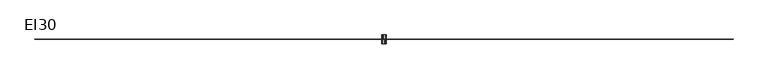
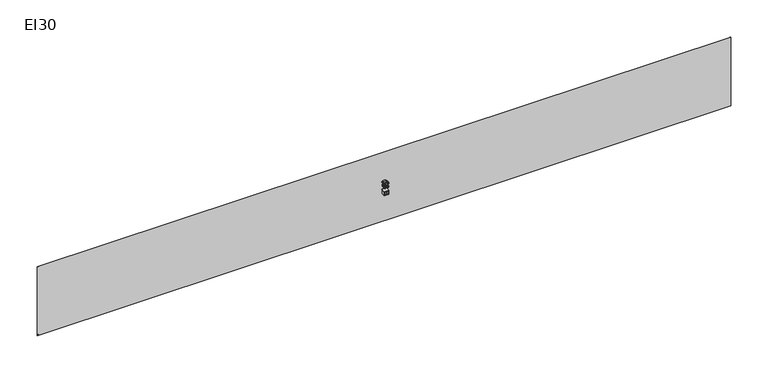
"""IFC4 building model written with IfcOpenShell, lengths in millimetres: proxy geometry, Fire_FireCompartmentationEI : EI30."""

from ifc_helpers import new_model, si_unit, point, frame, frame_2d, origin, origin_with_axes, place, context, project, spatial, polyline, circle_curve, trimmed, segment, composite_curve, outline, extrude, source, transform, mapped, element, save


def ei30_90d5b6a1(model_context):
    return source(origin(), model_context, "Body", "SweptSolid", [
        extrude(outline(polyline([(23900.0, -0.5), (0.0, -0.5), (0.0, 0.5), (23900.0, 0.5), (23900.0, -0.5)])), origin_with_axes(), (0.0, 0.0, 1.0), 2500.0),
        extrude(outline(composite_curve([segment(trimmed(circle_curve(frame_2d((28.9488523, 20.9372462)), 4.3000253), [point((27.7936078, 25.0791815))], [point((29.724042, 25.1668205))], False, "CARTESIAN"), True, "CONTINUOUS"), segment(trimmed(circle_curve(frame_2d((29.6833004, 19.2917407)), 5.875221), [point((29.724042, 25.1668205))], [point((32.6283278, 24.3755421))], False, "CARTESIAN"), True, "CONTINUOUS"), segment(trimmed(circle_curve(frame_2d((32.8576867, 20.8662932)), 3.5167361), [point((32.6283278, 24.3755421))], [point((30.6249304, 23.5833197))], True, "CARTESIAN"), True, "CONTINUOUS"), segment(trimmed(circle_curve(frame_2d((10.876956, 53.8348059)), 36.1266511), [point((30.6249304, 23.5833197))], [point((25.8949704, 20.9776277))], False, "CARTESIAN"), True, "CONTINUOUS"), segment(trimmed(circle_curve(frame_2d((21.9041848, 33.757735)), 13.3887083), [point((25.8949704, 20.9776277))], [point((22.6832699, 20.3917132))], False, "CARTESIAN"), True, "CONTINUOUS"), segment(trimmed(circle_curve(frame_2d((20.9508608, 39.8789486)), 19.5640891), [point((22.6832699, 20.3917132))], [point((20.0109811, 20.3374489))], False, "CARTESIAN"), True, "CONTINUOUS"), segment(trimmed(circle_curve(frame_2d((18.2722891, 30.1747881)), 9.9898094), [point((20.0109811, 20.3374489))], [point((25.2489423, 23.0247809))], True, "CARTESIAN"), True, "CONTINUOUS"), segment(trimmed(circle_curve(frame_2d((30.9774835, 18.5323372)), 7.2799887), [point((25.2489423, 23.0247809))], [point((27.7936078, 25.0791815))], False, "CARTESIAN"), True, "CONTINUOUS")], self_intersect=False)), frame((0.0, -0.6, 0.0), z_axis=(0.0, 1.0, 0.0), x_axis=(0.0, 0.0, 1.0)), (0.0, 0.0, 1.0), 1.2),
        extrude(outline(composite_curve([segment(trimmed(circle_curve(frame_2d((34.8553456, 17.4656787)), 4.3823741), [point((35.4675373, 21.8050824))], [point((32.7666638, 21.3182897))], True, "CARTESIAN"), True, "CONTINUOUS"), segment(trimmed(circle_curve(frame_2d((31.0348418, 25.2412811)), 4.2882478), [point((32.7666638, 21.3182897))], [point((31.0556823, 20.9530839))], False, "CARTESIAN"), True, "CONTINUOUS"), segment(trimmed(circle_curve(frame_2d((30.8661112, 26.3534755)), 5.4037178), [point((31.0556823, 20.9530839))], [point((28.4262544, 21.5319337))], False, "CARTESIAN"), True, "CONTINUOUS"), segment(trimmed(circle_curve(frame_2d((28.9867579, 26.8058524)), 5.3036197), [point((28.4262544, 21.5319337))], [point((30.6443727, 21.7679267))], True, "CARTESIAN"), True, "CONTINUOUS"), segment(trimmed(circle_curve(frame_2d((33.7648144, 18.2895153)), 4.6729544), [point((30.6443727, 21.7679267))], [point((32.5632515, 22.8053485))], False, "CARTESIAN"), True, "CONTINUOUS"), segment(trimmed(circle_curve(frame_2d((33.1708117, 19.8529583)), 3.0142556), [point((32.5632515, 22.8053485))], [point((35.4675373, 21.8050824))], False, "CARTESIAN"), True, "CONTINUOUS")], self_intersect=False)), frame((0.0, -0.6, 0.0), z_axis=(0.0, 1.0, 0.0), x_axis=(0.0, 0.0, 1.0)), (0.0, 0.0, 1.0), 1.2),
        extrude(outline(composite_curve([segment(trimmed(circle_curve(frame_2d((26.35828, 17.8501973)), 2.1465167), [point((27.6612009, 19.5560492))], [point((26.6135063, 19.9814864))], True, "CARTESIAN"), True, "CONTINUOUS"), segment(trimmed(circle_curve(frame_2d((25.771558, 13.6747037)), 6.3627341), [point((26.6135063, 19.9814864))], [point((25.1811141, 20.0099828))], True, "CARTESIAN"), True, "CONTINUOUS"), segment(trimmed(circle_curve(frame_2d((27.6708438, 15.0485986)), 5.5510437), [point((25.1811141, 20.0099828))], [point((27.8117089, 20.5978547))], False, "CARTESIAN"), True, "CONTINUOUS"), segment(trimmed(circle_curve(frame_2d((27.9681735, 17.2267436)), 3.3747401), [point((27.8117089, 20.5978547))], [point((29.507487, 20.2299728))], False, "CARTESIAN"), True, "CONTINUOUS"), segment(trimmed(circle_curve(frame_2d((31.5381431, 23.6896238)), 4.0115769), [point((29.507487, 20.2299728))], [point((32.2223971, 19.7368341))], True, "CARTESIAN"), True, "CONTINUOUS"), segment(trimmed(circle_curve(frame_2d((29.9256715, 21.6889582)), 3.0142556), [point((32.2223971, 19.7368341))], [point((29.3181113, 18.736568))], False, "CARTESIAN"), True, "CONTINUOUS"), segment(trimmed(circle_curve(frame_2d((30.5170043, 23.2454076)), 4.6655095), [point((29.3181113, 18.736568))], [point((27.6612009, 19.5560492))], False, "CARTESIAN"), True, "CONTINUOUS")], self_intersect=False)), frame((0.0, -0.6, 0.0), z_axis=(0.0, 1.0, 0.0), x_axis=(0.0, 0.0, 1.0)), (0.0, 0.0, 1.0), 1.2),
        extrude(outline(composite_curve([segment(trimmed(circle_curve(frame_2d((32.8467056, 19.4711557)), 3.5167361), [point((30.6139493, 16.7541292))], [point((32.6173467, 15.9619068))], True, "CARTESIAN"), True, "CONTINUOUS"), segment(trimmed(circle_curve(frame_2d((29.6723193, 21.0457082)), 5.875221), [point((32.6173467, 15.9619068))], [point((29.7130609, 15.1706284))], False, "CARTESIAN"), True, "CONTINUOUS"), segment(trimmed(circle_curve(frame_2d((28.9378712, 19.4002026)), 4.3000253), [point((29.7130609, 15.1706284))], [point((27.7826267, 15.2582674))], False, "CARTESIAN"), True, "CONTINUOUS"), segment(trimmed(circle_curve(frame_2d((30.9665024, 21.8051117)), 7.2799887), [point((27.7826267, 15.2582674))], [point((25.2379612, 17.312668))], False, "CARTESIAN"), True, "CONTINUOUS"), segment(trimmed(circle_curve(frame_2d((18.261308, 10.1626608)), 9.9898094), [point((25.2379612, 17.312668))], [point((20.0, 20.0))], True, "CARTESIAN"), True, "CONTINUOUS"), segment(trimmed(circle_curve(frame_2d((20.9398797, 0.4585003)), 19.5640891), [point((20.0, 20.0))], [point((22.6722888, 19.9457357))], False, "CARTESIAN"), True, "CONTINUOUS"), segment(trimmed(circle_curve(frame_2d((21.8932037, 6.5797139)), 13.3887083), [point((22.6722888, 19.9457357))], [point((25.8839893, 19.3598212))], False, "CARTESIAN"), True, "CONTINUOUS"), segment(trimmed(circle_curve(frame_2d((10.8659749, -13.497357)), 36.1266511), [point((25.8839893, 19.3598212))], [point((30.6139493, 16.7541292))], False, "CARTESIAN"), True, "CONTINUOUS")], self_intersect=False)), frame((0.0, -0.6, 0.0), z_axis=(0.0, 1.0, 0.0), x_axis=(0.0, 0.0, 1.0)), (0.0, 0.0, 1.0), 1.2),
        extrude(outline(polyline([(1022.7960798, 11875.0), (1022.7960798, 12025.6844652), (1131.1005392, 12025.6844652), (1131.1005392, 12006.8489071), (1041.6316379, 12006.8489071), (1041.6316379, 11962.1144565), (1126.3916496, 11962.1144565), (1126.3916496, 11943.2788983), (1041.6316379, 11943.2788983), (1041.6316379, 11893.8355582), (1133.4549839, 11893.8355582), (1133.4549839, 11875.0), (1022.7960798, 11875.0)])), frame((0.0, 0.0, 0.0), z_axis=(0.0, 1.0, 0.0), x_axis=(0.0, 0.0, 1.0)), (0.0, 0.0, 1.0), 150.0),
        extrude(outline(polyline([(11875.0, 150.0), (12025.6844652, 150.0), (12025.6844652, 0.0), (11875.0, 0.0), (11875.0, 150.0)])), frame((0.0, 0.0, 1164.0627659), z_axis=(0.0, 0.0, 1.0), x_axis=(1.0, 0.0, 0.0)), (0.0, 0.0, 1.0), 18.8355582),
        extrude(outline(polyline([(1272.3672253, 11915.0255611), (1291.2027835, 11917.3800058), (1295.4196308, 11905.5434026), (1301.5954498, 11897.5511663), (1310.0337431, 11892.9986266), (1321.0380133, 11891.4811134), (1333.9506713, 11893.5688437), (1343.9202734, 11899.8320347), (1350.2938289, 11909.1762374), (1352.4183475, 11920.5070028), (1350.312223, 11931.2629526), (1343.9938498, 11939.9863544), (1334.4289179, 11945.7667003), (1322.5831176, 11947.6934822), (1309.376154, 11945.6333431), (1311.4730814, 11964.4689012), (1314.4897138, 11964.248172), (1335.8636577, 11969.6560374), (1342.9821743, 11976.5170366), (1345.3550131, 11986.2843035), (1343.6351648, 11994.4190942), (1338.4756198, 12001.0179774), (1330.6029451, 12005.3911747), (1320.7437077, 12006.8489071), (1310.8660761, 12005.3773791), (1302.7910663, 12000.9627951), (1296.8957573, 11993.6051552), (1293.5572282, 11983.3044594), (1274.7216701, 11985.6589041), (1280.2674912, 12002.5722789), (1290.1359257, 12015.1998284), (1303.6371949, 12023.063306), (1320.0815201, 12025.6844652), (1342.7982333, 12020.5157232), (1358.6907355, 12006.3890546), (1364.1905713, 11987.3879495), (1358.966647, 11970.0239194), (1343.5156032, 11957.5527197), (1355.3062211, 11952.7886479), (1364.0434185, 11944.6768499), (1369.4512838, 11933.6587841), (1371.2539056, 11920.175909), (1367.6486621, 11901.8185974), (1356.8329314, 11886.4779182), (1340.5081679, 11876.103646), (1320.3758257, 11872.6455552), (1302.1656669, 11875.5978082), (1287.3400225, 11884.4545673), (1277.0301296, 11898.0018217), (1272.3672253, 11915.0255611)])), frame((0.0, 0.0, 0.0), z_axis=(0.0, 1.0, 0.0), x_axis=(0.0, 0.0, 1.0)), (0.0, 0.0, 1.0), 150.0),
        extrude(outline(polyline([(1387.735019, 11949.128222), (1389.119175, 11973.2474853), (1393.271643, 11992.4831152), (1400.1510363, 12007.1294171), (1409.7159682, 12017.4806967), (1422.0354165, 12023.6335231), (1437.1783591, 12025.6844652), (1459.1777025, 12020.8284229), (1474.3712289, 12006.830513), (1483.2003967, 11984.5368641), (1486.6216993, 11949.128222), (1485.2513389, 11925.1469145), (1481.1402576, 11905.9572699), (1474.302251, 11891.2971724), (1464.7511147, 11880.904506), (1452.4040752, 11874.7102929), (1437.1783591, 11872.6455552), (1417.607037, 11876.2324047), (1402.7446044, 11886.992953), (1391.4874153, 11912.4779783), (1387.735019, 11949.128222)]), holes=[polyline([(1406.5705771, 11949.1650102), (1408.7778691, 11919.536714), (1415.399745, 11902.3888145), (1425.2589825, 11894.2080387), (1437.1783591, 11891.4811134), (1449.0977358, 11894.2172357), (1458.9569733, 11902.4256027), (1465.5788492, 11919.5826993), (1467.7861411, 11949.1650102), (1465.6524256, 11978.1265203), (1459.2512789, 11995.407777), (1449.4104355, 12003.9886246), (1436.9576299, 12006.8489071), (1425.167012, 12004.3289154), (1415.6940506, 11996.7689404), (1408.8514455, 11978.4116288), (1406.5705771, 11949.1650102)])]), frame((0.0, 0.0, 0.0), z_axis=(0.0, 1.0, 0.0), x_axis=(0.0, 0.0, 1.0)), (0.0, 0.0, 1.0), 150.0),
        extrude(outline(polyline([(1022.7960798, 12025.0), (1133.4549839, 12025.0), (1133.4549839, 12006.1644418), (1041.6316379, 12006.1644418), (1041.6316379, 11956.7211017), (1126.3916496, 11956.7211017), (1126.3916496, 11937.8855435), (1041.6316379, 11937.8855435), (1041.6316379, 11893.1510929), (1131.1005392, 11893.1510929), (1131.1005392, 11874.3155348), (1022.7960798, 11874.3155348), (1022.7960798, 12025.0)])), frame((0.0, -150.0, 0.0), z_axis=(0.0, 1.0, 0.0), x_axis=(0.0, 0.0, 1.0)), (0.0, 0.0, 1.0), 150.0),
        extrude(outline(polyline([(12025.0, -150.0), (11874.3155348, -150.0), (11874.3155348, 0.0), (12025.0, 0.0), (12025.0, -150.0)])), frame((0.0, 0.0, 1164.0627659), z_axis=(0.0, 0.0, 1.0), x_axis=(1.0, 0.0, 0.0)), (0.0, 0.0, 1.0), 18.8355582),
        extrude(outline(polyline([(1272.3672253, 11984.9744389), (1277.0301296, 12001.9981783), (1287.3400225, 12015.5454327), (1302.1656669, 12024.4021918), (1320.3758257, 12027.3544448), (1340.5081679, 12023.896354), (1356.8329314, 12013.5220818), (1367.6486621, 11998.1814026), (1371.2539056, 11979.824091), (1369.4512838, 11966.3412159), (1364.0434185, 11955.3231501), (1355.3062211, 11947.2113521), (1343.5156032, 11942.4472803), (1358.966647, 11929.9760806), (1364.1905713, 11912.6120505), (1358.6907355, 11893.6109454), (1342.7982333, 11879.4842768), (1320.0815201, 11874.3155348), (1303.6371949, 11876.936694), (1290.1359257, 11884.8001716), (1280.2674912, 11897.4277211), (1274.7216701, 11914.3410959), (1293.5572282, 11916.6955406), (1296.8957573, 11906.3948448), (1302.7910663, 11899.0372049), (1310.8660761, 11894.6226209), (1320.7437077, 11893.1510929), (1330.6029451, 11894.6088253), (1338.4756198, 11898.9820226), (1343.6351648, 11905.5809058), (1345.3550131, 11913.7156965), (1342.9821743, 11923.4829634), (1335.8636577, 11930.3439626), (1314.4897138, 11935.751828), (1311.4730814, 11935.5310988), (1309.376154, 11954.3666569), (1322.5831176, 11952.3065178), (1334.4289179, 11954.2332997), (1343.9938498, 11960.0136456), (1350.312223, 11968.7370474), (1352.4183475, 11979.4929972), (1350.2938289, 11990.8237626), (1343.9202734, 12000.1679653), (1333.9506713, 12006.4311563), (1321.0380133, 12008.5188866), (1310.0337431, 12007.0013734), (1301.5954498, 12002.4488337), (1295.4196308, 11994.4565974), (1291.2027835, 11982.6199942), (1272.3672253, 11984.9744389)])), frame((0.0, -150.0, 0.0), z_axis=(0.0, 1.0, 0.0), x_axis=(0.0, 0.0, 1.0)), (0.0, 0.0, 1.0), 150.0),
        extrude(outline(polyline([(1387.735019, 11950.871778), (1391.4874153, 11987.5220217), (1402.7446044, 12013.007047), (1417.607037, 12023.7675953), (1437.1783591, 12027.3544448), (1452.4040752, 12025.2897071), (1464.7511147, 12019.095494), (1474.302251, 12008.7028276), (1481.1402576, 11994.0427301), (1485.2513389, 11974.8530855), (1486.6216993, 11950.871778), (1483.2003967, 11915.4631359), (1474.3712289, 11893.169487), (1459.1777025, 11879.1715771), (1437.1783591, 11874.3155348), (1422.0354165, 11876.3664769), (1409.7159682, 11882.5193033), (1400.1510363, 11892.8705829), (1393.271643, 11907.5168848), (1389.119175, 11926.7525147), (1387.735019, 11950.871778)]), holes=[polyline([(1406.5705771, 11950.8349898), (1408.8514455, 11921.5883712), (1415.6940506, 11903.2310596), (1425.167012, 11895.6710846), (1436.9576299, 11893.1510929), (1449.4104355, 11896.0113754), (1459.2512789, 11904.592223), (1465.6524256, 11921.8734797), (1467.7861411, 11950.8349898), (1465.5788492, 11980.4173007), (1458.9569733, 11997.5743973), (1449.0977358, 12005.7827643), (1437.1783591, 12008.5188866), (1425.2589825, 12005.7919613), (1415.399745, 11997.6111855), (1408.7778691, 11980.463286), (1406.5705771, 11950.8349898)])]), frame((0.0, -150.0, 0.0), z_axis=(0.0, 1.0, 0.0), x_axis=(0.0, 0.0, 1.0)), (0.0, 0.0, 1.0), 150.0),
    ])


if __name__ == "__main__":
    model = new_model("IFC4")
    model_context = context("Model", 3, world=origin())
    ifc_project = project(units=[si_unit("LENGTHUNIT", "METRE", prefix="MILLI")], contexts=[model_context])
    site = spatial("IfcSite", under=ifc_project)
    building = spatial("IfcBuilding", under=site)
    placement = place(None, origin())
    ei30_shape = ei30_90d5b6a1(model_context)
    element("IfcBuildingElementProxy", 1, Name="Fire_FireCompartmentationEI : EI30", ObjectType="Fire_FireCompartmentationEI : EI30", at=placement, inside=building, context=model_context, shape_type="MappedRepresentation", body=[
        mapped(ei30_shape, transform((0.0, 0.0, 0.0), x_axis=(1.0, 0.0, 0.0), y_axis=(0.0, 1.0, 0.0), z_axis=(0.0, 0.0, 1.0))),
    ])
    save(model, "model.ifc")
